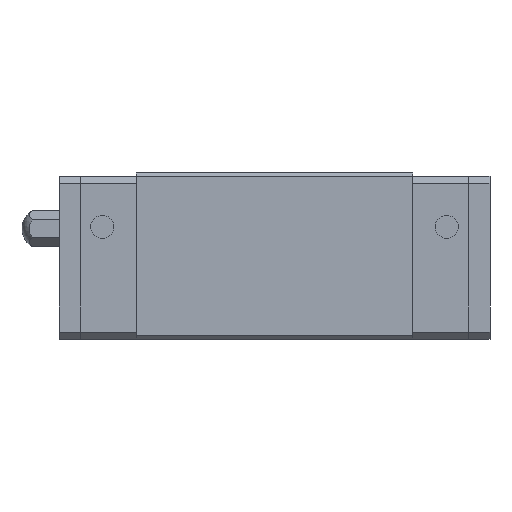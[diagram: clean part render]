
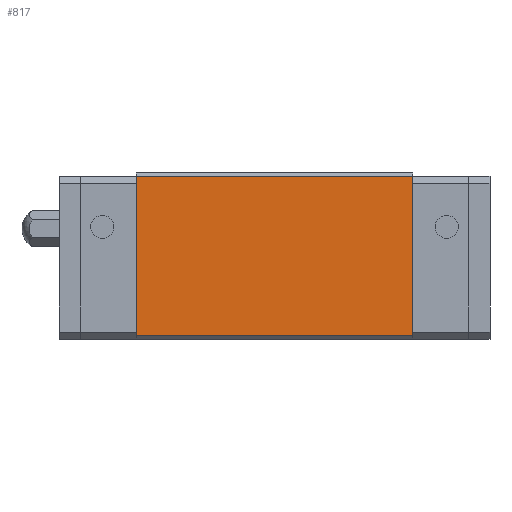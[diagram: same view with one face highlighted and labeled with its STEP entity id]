
A CAD part, front view. The second image highlights one B-rep face of the part: STEP entity #817.
In plain terms, the highlighted planar face has unit normal (0, -1, 0).
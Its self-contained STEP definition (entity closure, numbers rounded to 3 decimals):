
#756=CARTESIAN_POINT('POINT46',(50.4,-17.,
   0.5));
#757=VERTEX_POINT('VERTEX46',#756);
#764=CARTESIAN_POINT('POINT47',(11.,-17.,0.5
   ));
#765=VERTEX_POINT('VERTEX47',#764);
#766=CARTESIAN_POINT('POS77',(11.,-17.,0.5))
   ;
#767=DIRECTION('DIR116',(1.,0.,0.));
#768=VECTOR('VEC38',#767,1.);
#769=LINE('STRAIGHT38',#766,#768);
#770=EDGE_CURVE('EDGE76',#765,#757,#769,.T.);
#787=CARTESIAN_POINT('POINT48',(50.4,-17.,23.2));
#788=VERTEX_POINT('VERTEX48',#787);
#789=CARTESIAN_POINT('POS80',(50.4,-17.,23.2));
#790=DIRECTION('DIR120',(0.,0.,1.));
#791=VECTOR('VEC40',#790,1.);
#792=LINE('STRAIGHT40',#789,#791);
#793=EDGE_CURVE('EDGE78',#757,#788,#792,.T.);
#794=ORIENTED_EDGE('COEDGE143',*,*,#793,.T.);
#795=CARTESIAN_POINT('POINT49',(11.,-17.,23.2));
#796=VERTEX_POINT('VERTEX49',#795);
#797=CARTESIAN_POINT('POS81',(11.,-17.,23.2));
#798=DIRECTION('DIR121',(1.,0.,0.));
#799=VECTOR('VEC41',#798,1.);
#800=LINE('STRAIGHT41',#797,#799);
#801=EDGE_CURVE('EDGE79',#796,#788,#800,.T.);
#802=ORIENTED_EDGE('COEDGE144',*,*,#801,.F.);
#803=CARTESIAN_POINT('POS82',(11.,-17.,23.2));
#804=DIRECTION('DIR122',(0.,0.,-1.));
#805=VECTOR('VEC42',#804,1.);
#806=LINE('STRAIGHT42',#803,#805);
#807=EDGE_CURVE('EDGE80',#796,#765,#806,.T.);
#808=ORIENTED_EDGE('COEDGE145',*,*,#807,.T.);
#809=ORIENTED_EDGE('COEDGE146',*,*,#770,.T.);
#810=EDGE_LOOP('NONE',(#794,#802,#808,#809));
#811=FACE_BOUND('LOOP1',#810,.T.);
#812=CARTESIAN_POINT('POS83',(11.,-17.,0.5))
   ;
#813=DIRECTION('DIR123',(0.,-1.,0.));
#814=DIRECTION('DIR124',(1.,0.,0.));
#815=AXIS2_PLACEMENT_3D('AXIS41',#812,#813,#814);
#816=PLANE('PLANE6',#815);
#817=ADVANCED_FACE('FACE38',(#811),#816,.T.);
